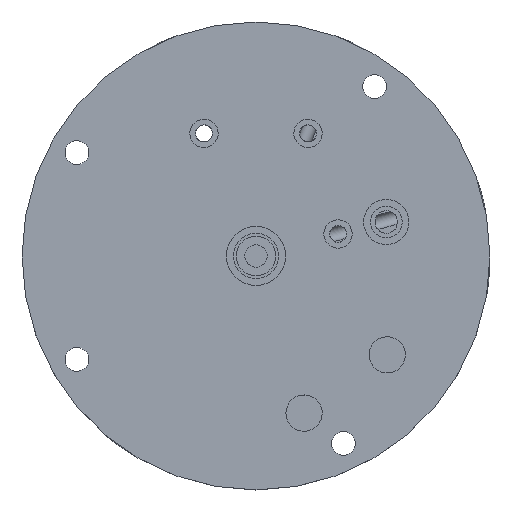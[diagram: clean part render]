
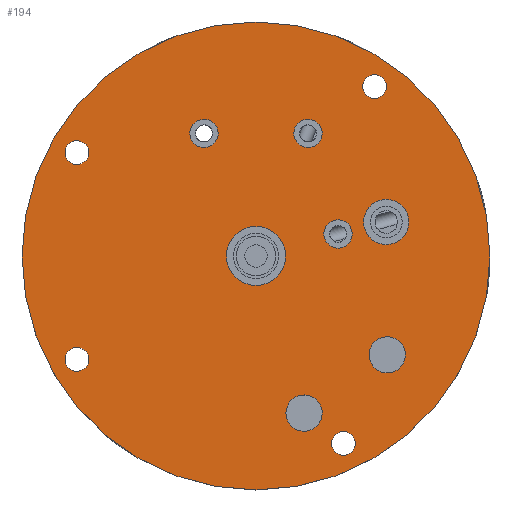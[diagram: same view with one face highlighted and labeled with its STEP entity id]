
A CAD part, top view. The second image highlights one B-rep face of the part: STEP entity #194.
In plain terms, the highlighted planar face has unit normal (0, 0, 1).
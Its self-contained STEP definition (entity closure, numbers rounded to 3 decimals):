
#194=ADVANCED_FACE('',(#460,#461,#462,#463,#464,#465,#466,#467,#468,#469,#470,#471),#472,.T.);
#460=FACE_BOUND('',#763,.T.);
#461=FACE_BOUND('',#764,.T.);
#462=FACE_BOUND('',#765,.T.);
#463=FACE_BOUND('',#766,.T.);
#464=FACE_BOUND('',#767,.T.);
#465=FACE_BOUND('',#768,.T.);
#466=FACE_BOUND('',#769,.T.);
#467=FACE_BOUND('',#770,.T.);
#468=FACE_BOUND('',#771,.T.);
#469=FACE_BOUND('',#772,.T.);
#470=FACE_BOUND('',#773,.T.);
#471=FACE_OUTER_BOUND('',#774,.T.);
#472=PLANE('',#775);
#763=EDGE_LOOP('',(#1200));
#764=EDGE_LOOP('',(#1201));
#765=EDGE_LOOP('',(#1202));
#766=EDGE_LOOP('',(#1203));
#767=EDGE_LOOP('',(#1204));
#768=EDGE_LOOP('',(#1205));
#769=EDGE_LOOP('',(#1206));
#770=EDGE_LOOP('',(#1207));
#771=EDGE_LOOP('',(#1208));
#772=EDGE_LOOP('',(#1209));
#773=EDGE_LOOP('',(#1210));
#774=EDGE_LOOP('',(#1211));
#775=AXIS2_PLACEMENT_3D('',#1212,#1213,#1214);
#1200=ORIENTED_EDGE('',*,*,#1413,.F.);
#1201=ORIENTED_EDGE('',*,*,#1415,.T.);
#1202=ORIENTED_EDGE('',*,*,#1424,.T.);
#1203=ORIENTED_EDGE('',*,*,#1428,.T.);
#1204=ORIENTED_EDGE('',*,*,#1448,.F.);
#1205=ORIENTED_EDGE('',*,*,#1455,.T.);
#1206=ORIENTED_EDGE('',*,*,#1463,.F.);
#1207=ORIENTED_EDGE('',*,*,#1465,.T.);
#1208=ORIENTED_EDGE('',*,*,#1472,.T.);
#1209=ORIENTED_EDGE('',*,*,#1479,.T.);
#1210=ORIENTED_EDGE('',*,*,#1495,.T.);
#1211=ORIENTED_EDGE('',*,*,#1359,.T.);
#1212=CARTESIAN_POINT('',(0.0,0.622,-106.));
#1213=DIRECTION('',(0.0,0.0,1.0));
#1214=DIRECTION('',(1.0,0.0,0.0));
#1359=EDGE_CURVE('',#1549,#1549,#1550,.T.);
#1413=EDGE_CURVE('',#1634,#1634,#1635,.T.);
#1415=EDGE_CURVE('',#1637,#1637,#1638,.T.);
#1424=EDGE_CURVE('',#1651,#1651,#1652,.T.);
#1428=EDGE_CURVE('',#1657,#1657,#1658,.T.);
#1448=EDGE_CURVE('',#1688,#1688,#1689,.T.);
#1455=EDGE_CURVE('',#1699,#1699,#1700,.T.);
#1463=EDGE_CURVE('',#1710,#1710,#1711,.T.);
#1465=EDGE_CURVE('',#1713,#1713,#1714,.T.);
#1472=EDGE_CURVE('',#1724,#1724,#1725,.T.);
#1479=EDGE_CURVE('',#1735,#1735,#1736,.T.);
#1495=EDGE_CURVE('',#1760,#1760,#1761,.T.);
#1549=VERTEX_POINT('',#2045);
#1550=CIRCLE('',#2046,41.3);
#1634=VERTEX_POINT('',#2578);
#1635=CIRCLE('',#2579,2.5);
#1637=VERTEX_POINT('',#2581);
#1638=CIRCLE('',#2582,2.1);
#1651=VERTEX_POINT('',#2595);
#1652=CIRCLE('',#2596,3.2);
#1657=VERTEX_POINT('',#2601);
#1658=CIRCLE('',#2602,3.2);
#1688=VERTEX_POINT('',#2718);
#1689=CIRCLE('',#2719,2.5);
#1699=VERTEX_POINT('',#2729);
#1700=CIRCLE('',#2730,4.0);
#1710=VERTEX_POINT('',#2740);
#1711=CIRCLE('',#2741,2.5);
#1713=VERTEX_POINT('',#2743);
#1714=CIRCLE('',#2744,2.1);
#1724=VERTEX_POINT('',#2754);
#1725=CIRCLE('',#2755,2.1);
#1735=VERTEX_POINT('',#2765);
#1736=CIRCLE('',#2766,2.1);
#1760=VERTEX_POINT('',#2790);
#1761=CIRCLE('',#2791,5.2);
#2045=CARTESIAN_POINT('',(41.3,0.622,-106.));
#2046=AXIS2_PLACEMENT_3D('',#2829,#2830,#2831);
#2578=CARTESIAN_POINT('',(-8.205,19.952,-106.));
#2579=AXIS2_PLACEMENT_3D('',#2883,#2884,#2885);
#2581=CARTESIAN_POINT('',(15.426,-30.358,-106.));
#2582=AXIS2_PLACEMENT_3D('',#2886,#2887,#2888);
#2595=CARTESIAN_POINT('',(5.419,-28.047,-106.));
#2596=AXIS2_PLACEMENT_3D('',#2901,#2902,#2903);
#2601=CARTESIAN_POINT('',(21.235,-19.386,-106.));
#2602=AXIS2_PLACEMENT_3D('',#2907,#2908,#2909);
#2718=CARTESIAN_POINT('',(12.074,3.857,-106.));
#2719=AXIS2_PLACEMENT_3D('',#2937,#2938,#2939);
#2729=CARTESIAN_POINT('',(27.0,6.622,-106.));
#2730=AXIS2_PLACEMENT_3D('',#2949,#2950,#2951);
#2740=CARTESIAN_POINT('',(8.205,19.952,-106.));
#2741=AXIS2_PLACEMENT_3D('',#2961,#2962,#2963);
#2743=CARTESIAN_POINT('',(20.936,32.621,-106.));
#2744=AXIS2_PLACEMENT_3D('',#2964,#2965,#2966);
#2754=CARTESIAN_POINT('',(-31.61,20.972,-106.));
#2755=AXIS2_PLACEMENT_3D('',#2976,#2977,#2978);
#2765=CARTESIAN_POINT('',(-31.61,-15.528,-106.));
#2766=AXIS2_PLACEMENT_3D('',#2988,#2989,#2990);
#2790=CARTESIAN_POINT('',(5.2,0.622,-106.));
#2791=AXIS2_PLACEMENT_3D('',#3015,#3016,#3017);
#2829=CARTESIAN_POINT('',(0.0,0.622,-106.));
#2830=DIRECTION('',(0.0,0.0,1.0));
#2831=DIRECTION('',(1.0,0.0,0.0));
#2883=CARTESIAN_POINT('',(-9.182,22.254,-106.));
#2884=DIRECTION('',(0.,0.,1.0));
#2885=DIRECTION('',(0.391,-0.921,0.));
#2886=CARTESIAN_POINT('',(15.426,-32.458,-106.));
#2887=DIRECTION('',(0.0,0.,-1.0));
#2888=DIRECTION('',(0.0,1.0,0.));
#2901=CARTESIAN_POINT('',(8.479,-27.111,-106.));
#2902=DIRECTION('',(-0.0,0.0,-1.0));
#2903=DIRECTION('',(-0.956,-0.292,0.0));
#2907=CARTESIAN_POINT('',(23.16,-16.831,-106.));
#2908=DIRECTION('',(-0.0,0.0,-1.0));
#2909=DIRECTION('',(-0.602,-0.799,0.0));
#2937=CARTESIAN_POINT('',(14.489,4.504,-106.));
#2938=DIRECTION('',(0.,0.,1.0));
#2939=DIRECTION('',(-0.966,-0.259,0.));
#2949=CARTESIAN_POINT('',(23.0,6.622,-106.));
#2950=DIRECTION('',(0.0,0.0,-1.0));
#2951=DIRECTION('',(1.0,0.0,0.0));
#2961=CARTESIAN_POINT('',(9.182,22.254,-106.));
#2962=DIRECTION('',(0.,0.,1.0));
#2963=DIRECTION('',(-0.391,-0.921,0.));
#2964=CARTESIAN_POINT('',(20.936,30.521,-106.));
#2965=DIRECTION('',(0.0,0.,-1.0));
#2966=DIRECTION('',(0.0,1.0,0.));
#2976=CARTESIAN_POINT('',(-31.61,18.872,-106.));
#2977=DIRECTION('',(0.0,0.,-1.0));
#2978=DIRECTION('',(0.0,1.0,0.));
#2988=CARTESIAN_POINT('',(-31.61,-17.628,-106.));
#2989=DIRECTION('',(0.0,0.,-1.0));
#2990=DIRECTION('',(0.0,1.0,0.));
#3015=CARTESIAN_POINT('',(0.0,0.622,-106.));
#3016=DIRECTION('',(0.0,0.0,-1.0));
#3017=DIRECTION('',(1.0,0.0,0.0));
